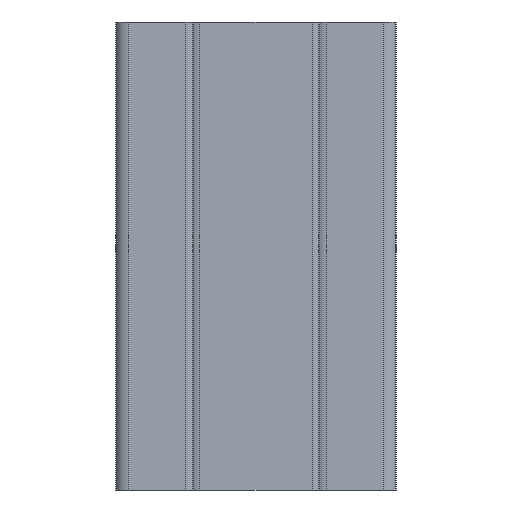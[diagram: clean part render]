
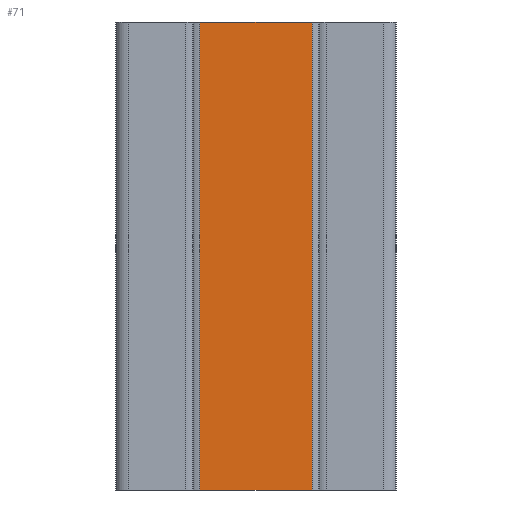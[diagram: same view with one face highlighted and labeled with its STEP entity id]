
A CAD part, left-side view. The second image highlights one B-rep face of the part: STEP entity #71.
In plain terms, the highlighted planar face has unit normal (-1, 0, 0).
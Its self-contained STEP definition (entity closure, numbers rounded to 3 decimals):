
#47 = DIRECTION ( 'NONE',  ( 0., 0., -1. ) ) ;
#71 = ADVANCED_FACE ( 'NONE', ( #1155 ), #1007, .F. ) ;
#102 = LINE ( 'NONE', #777, #1231 ) ;
#203 = ORIENTED_EDGE ( 'NONE', *, *, #384, .F. ) ;
#240 = LINE ( 'NONE', #1840, #1905 ) ;
#384 = EDGE_CURVE ( 'NONE', #1223, #616, #799, .T. ) ;
#469 = VERTEX_POINT ( 'NONE', #603 ) ;
#511 = VECTOR ( 'NONE', #1450, 1000. ) ;
#548 = CARTESIAN_POINT ( 'NONE',  ( -17.5, -9.5, 100. ) ) ;
#603 = CARTESIAN_POINT ( 'NONE',  ( -17.5, -14.5, 0. ) ) ;
#616 = VERTEX_POINT ( 'NONE', #1437 ) ;
#660 = CARTESIAN_POINT ( 'NONE',  ( -17.5, 9.5, 100. ) ) ;
#671 = EDGE_CURVE ( 'NONE', #1223, #996, #102, .T. ) ;
#777 = CARTESIAN_POINT ( 'NONE',  ( -17.5, 9.5, 100. ) ) ;
#799 = LINE ( 'NONE', #1681, #1026 ) ;
#982 = CARTESIAN_POINT ( 'NONE',  ( -17.5, -9.5, 0. ) ) ;
#996 = VERTEX_POINT ( 'NONE', #1525 ) ;
#1007 = PLANE ( 'NONE',  #2038 ) ;
#1024 = DIRECTION ( 'NONE',  ( 0., -1., 0. ) ) ;
#1026 = VECTOR ( 'NONE', #1024, 1000. ) ;
#1155 = FACE_OUTER_BOUND ( 'NONE', #1918, .T. ) ;
#1183 = DIRECTION ( 'NONE',  ( 1., 0., 0. ) ) ;
#1210 = EDGE_CURVE ( 'NONE', #996, #469, #1889, .T. ) ;
#1222 = ORIENTED_EDGE ( 'NONE', *, *, #2035, .F. ) ;
#1223 = VERTEX_POINT ( 'NONE', #660 ) ;
#1231 = VECTOR ( 'NONE', #1759, 1000. ) ;
#1341 = DIRECTION ( 'NONE',  ( 0., 1., 0. ) ) ;
#1427 = ORIENTED_EDGE ( 'NONE', *, *, #1210, .T. ) ;
#1437 = CARTESIAN_POINT ( 'NONE',  ( -17.5, -14.5, 100. ) ) ;
#1450 = DIRECTION ( 'NONE',  ( 0., -1., 0. ) ) ;
#1525 = CARTESIAN_POINT ( 'NONE',  ( -17.5, 9.5, 0. ) ) ;
#1681 = CARTESIAN_POINT ( 'NONE',  ( -17.5, -9.5, 100. ) ) ;
#1759 = DIRECTION ( 'NONE',  ( 0., 0., -1. ) ) ;
#1840 = CARTESIAN_POINT ( 'NONE',  ( -17.5, -14.5, 100. ) ) ;
#1889 = LINE ( 'NONE', #982, #511 ) ;
#1905 = VECTOR ( 'NONE', #47, 1000. ) ;
#1918 = EDGE_LOOP ( 'NONE', ( #1427, #1222, #203, #2027 ) ) ;
#2027 = ORIENTED_EDGE ( 'NONE', *, *, #671, .T. ) ;
#2035 = EDGE_CURVE ( 'NONE', #616, #469, #240, .T. ) ;
#2038 = AXIS2_PLACEMENT_3D ( 'NONE', #548, #1183, #1341 ) ;
